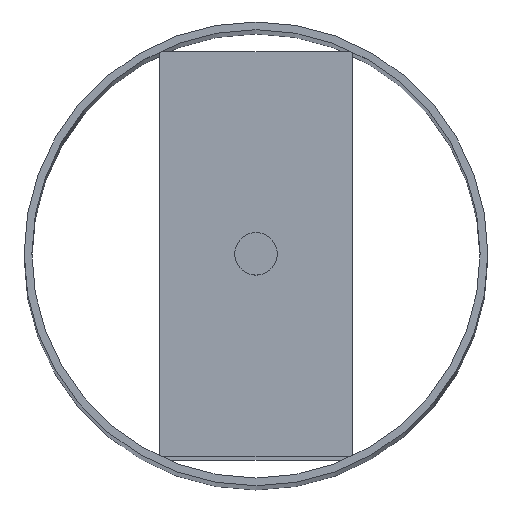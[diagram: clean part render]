
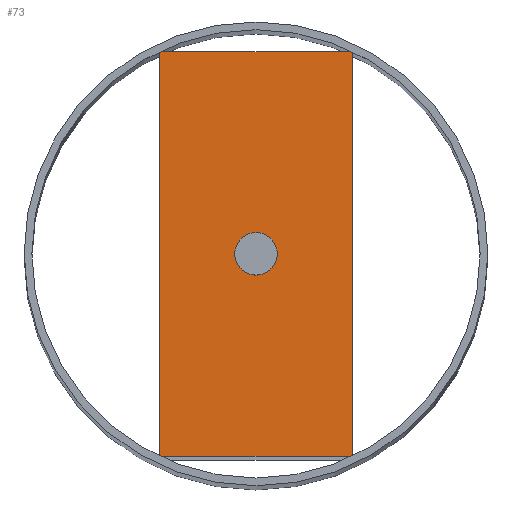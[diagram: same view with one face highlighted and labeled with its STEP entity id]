
A CAD part, top view. The second image highlights one B-rep face of the part: STEP entity #73.
In plain terms, the highlighted planar face has unit normal (0, 0, 1).
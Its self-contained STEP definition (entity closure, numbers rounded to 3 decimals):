
#73 = ADVANCED_FACE( '', ( #151, #152 ), #153, .T. );
#151 = FACE_BOUND( '', #240, .T. );
#152 = FACE_OUTER_BOUND( '', #241, .T. );
#153 = PLANE( '', #242 );
#240 = EDGE_LOOP( '', ( #372 ) );
#241 = EDGE_LOOP( '', ( #373, #374, #375, #376, #377, #378, #379, #380 ) );
#242 = AXIS2_PLACEMENT_3D( '', #381, #382, #383 );
#372 = ORIENTED_EDGE( '', *, *, #483, .T. );
#373 = ORIENTED_EDGE( '', *, *, #497, .T. );
#374 = ORIENTED_EDGE( '', *, *, #527, .T. );
#375 = ORIENTED_EDGE( '', *, *, #520, .T. );
#376 = ORIENTED_EDGE( '', *, *, #528, .T. );
#377 = ORIENTED_EDGE( '', *, *, #515, .T. );
#378 = ORIENTED_EDGE( '', *, *, #529, .T. );
#379 = ORIENTED_EDGE( '', *, *, #492, .T. );
#380 = ORIENTED_EDGE( '', *, *, #530, .T. );
#381 = CARTESIAN_POINT( '', ( 0., 0., 304.5 ) );
#382 = DIRECTION( '', ( 0., 0., 1. ) );
#383 = DIRECTION( '', ( 1., 0., 0. ) );
#483 = EDGE_CURVE( '', #567, #567, #568, .F. );
#492 = EDGE_CURVE( '', #582, #583, #584, .T. );
#497 = EDGE_CURVE( '', #591, #592, #593, .T. );
#515 = EDGE_CURVE( '', #622, #623, #624, .T. );
#520 = EDGE_CURVE( '', #631, #632, #633, .T. );
#527 = EDGE_CURVE( '', #592, #631, #643, .T. );
#528 = EDGE_CURVE( '', #632, #622, #644, .T. );
#529 = EDGE_CURVE( '', #623, #582, #645, .T. );
#530 = EDGE_CURVE( '', #583, #591, #646, .T. );
#567 = VERTEX_POINT( '', #692 );
#568 = CIRCLE( '', #693, 5.5 );
#582 = VERTEX_POINT( '', #707 );
#583 = VERTEX_POINT( '', #708 );
#584 = LINE( '', #709, #710 );
#591 = VERTEX_POINT( '', #720 );
#592 = VERTEX_POINT( '', #721 );
#593 = LINE( '', #722, #723 );
#622 = VERTEX_POINT( '', #763 );
#623 = VERTEX_POINT( '', #764 );
#624 = LINE( '', #765, #766 );
#631 = VERTEX_POINT( '', #776 );
#632 = VERTEX_POINT( '', #777 );
#633 = LINE( '', #778, #779 );
#643 = CIRCLE( '', #792, 58. );
#644 = CIRCLE( '', #793, 58. );
#645 = CIRCLE( '', #794, 58. );
#646 = CIRCLE( '', #795, 58. );
#692 = CARTESIAN_POINT( '', ( 5.5, 0., 304.5 ) );
#693 = AXIS2_PLACEMENT_3D( '', #835, #836, #837 );
#707 = CARTESIAN_POINT( '', ( -24.97, -52.35, 304.5 ) );
#708 = CARTESIAN_POINT( '', ( 24.97, -52.35, 304.5 ) );
#709 = CARTESIAN_POINT( '', ( -25., -52.35, 304.5 ) );
#710 = VECTOR( '', #853, 1000. );
#720 = CARTESIAN_POINT( '', ( 25., -52.335, 304.5 ) );
#721 = CARTESIAN_POINT( '', ( 25., 52.335, 304.5 ) );
#722 = CARTESIAN_POINT( '', ( 25., -52.35, 304.5 ) );
#723 = VECTOR( '', #857, 1000. );
#763 = CARTESIAN_POINT( '', ( -25., 52.335, 304.5 ) );
#764 = CARTESIAN_POINT( '', ( -25., -52.335, 304.5 ) );
#765 = CARTESIAN_POINT( '', ( -25., 52.35, 304.5 ) );
#766 = VECTOR( '', #872, 1000. );
#776 = CARTESIAN_POINT( '', ( 24.97, 52.35, 304.5 ) );
#777 = CARTESIAN_POINT( '', ( -24.97, 52.35, 304.5 ) );
#778 = CARTESIAN_POINT( '', ( 25., 52.35, 304.5 ) );
#779 = VECTOR( '', #876, 1000. );
#792 = AXIS2_PLACEMENT_3D( '', #883, #884, #885 );
#793 = AXIS2_PLACEMENT_3D( '', #886, #887, #888 );
#794 = AXIS2_PLACEMENT_3D( '', #889, #890, #891 );
#795 = AXIS2_PLACEMENT_3D( '', #892, #893, #894 );
#835 = CARTESIAN_POINT( '', ( 0., 0., 304.5 ) );
#836 = DIRECTION( '', ( 0., 0., 1. ) );
#837 = DIRECTION( '', ( 1., 0., 0. ) );
#853 = DIRECTION( '', ( 1., 0., 0. ) );
#857 = DIRECTION( '', ( 0., 1., 0. ) );
#872 = DIRECTION( '', ( 0., -1., 0. ) );
#876 = DIRECTION( '', ( -1., 0., 0. ) );
#883 = CARTESIAN_POINT( '', ( 0., 0., 304.5 ) );
#884 = DIRECTION( '', ( 0., 0., 1. ) );
#885 = DIRECTION( '', ( 1., 0., 0. ) );
#886 = CARTESIAN_POINT( '', ( 0., 0., 304.5 ) );
#887 = DIRECTION( '', ( 0., 0., 1. ) );
#888 = DIRECTION( '', ( 1., 0., 0. ) );
#889 = CARTESIAN_POINT( '', ( 0., 0., 304.5 ) );
#890 = DIRECTION( '', ( 0., 0., 1. ) );
#891 = DIRECTION( '', ( 1., 0., 0. ) );
#892 = CARTESIAN_POINT( '', ( 0., 0., 304.5 ) );
#893 = DIRECTION( '', ( 0., 0., 1. ) );
#894 = DIRECTION( '', ( 1., 0., 0. ) );
